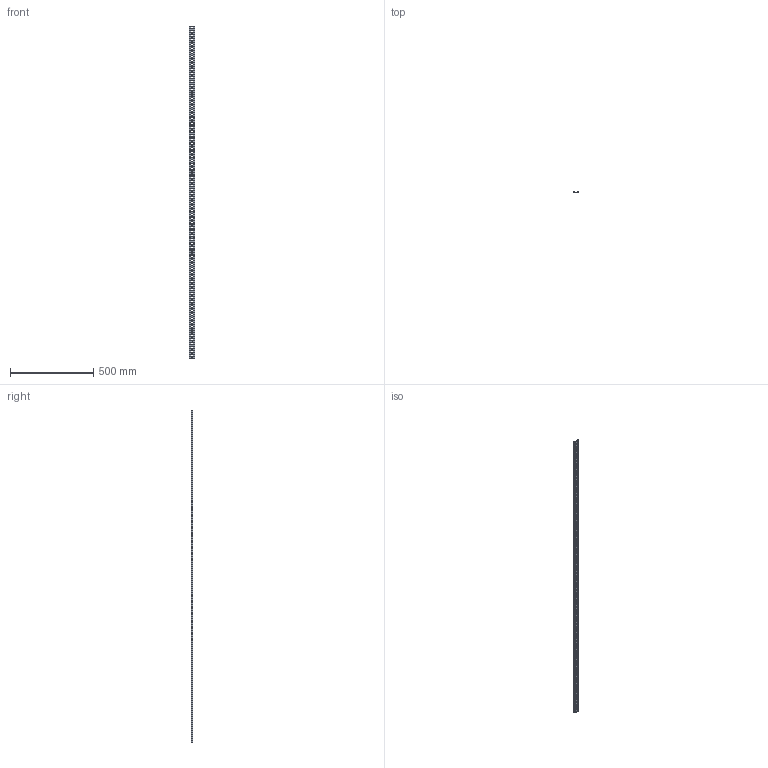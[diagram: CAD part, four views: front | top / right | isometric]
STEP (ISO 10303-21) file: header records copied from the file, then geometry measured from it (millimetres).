
FILE_DESCRIPTION (( 'STEP AP214' ), '1' );
FILE_NAME ('DIN-ðåéêà 2000ìì õ 0,1 ìì.STEP', '2025-10-22T11:57:46', ( '' ), ( '' ), 'SwSTEP 2.0', 'SolidWorks 2018', '' );
FILE_SCHEMA (( 'AUTOMOTIVE_DESIGN' ));
Length unit declared in the file: millimetre
Products named in the file (1): DIN-ðåéêà 2000ìì õ 0,1 ìì
Bounding box: 35.2 x 8.5 x 2000 mm (x, y, z)
Volume: 81942.1 mm3; surface area: 171395 mm2
Topology: 1 solids, 1 shells, 439 faces, 1279 edges, 842 vertices
Faces by surface type: cylinder 248, plane 191
Entity records: 15003 total; most frequent: DIRECTION 2655, CARTESIAN_POINT 2561, ORIENTED_EDGE 2558, EDGE_CURVE 1279, AXIS2_PLACEMENT_3D 936, VERTEX_POINT 842, LINE 783, VECTOR 783
